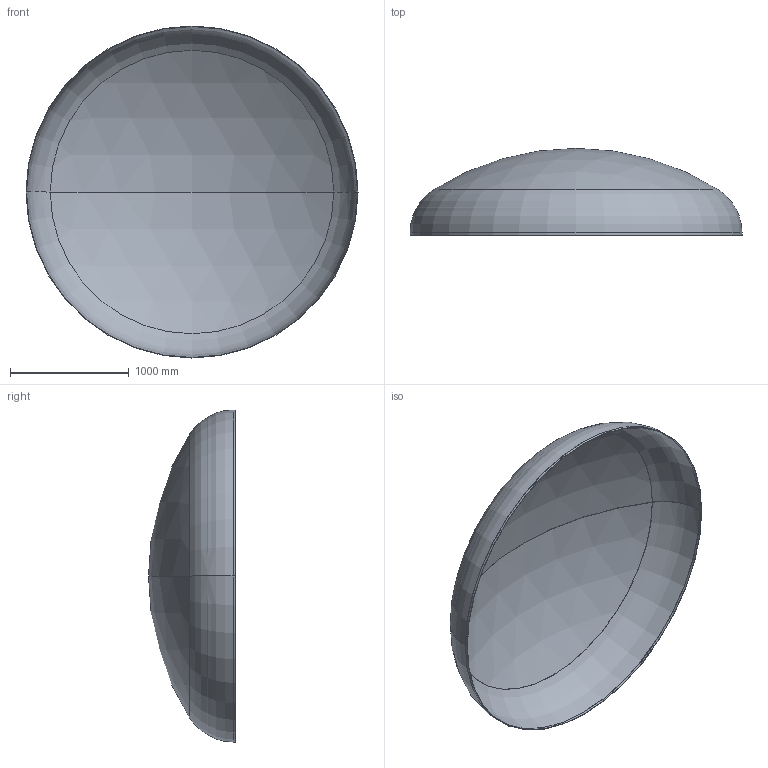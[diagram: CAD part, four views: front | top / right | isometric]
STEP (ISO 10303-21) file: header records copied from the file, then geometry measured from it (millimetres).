
FILE_DESCRIPTION (( 'STEP AP203' ), '1' );
FILE_NAME ('DIN 28013 Korbbogenform_-_Boden DIN 28013 - 2800 x 20 - I - s=4.step', '2016-07-01T16:37:54', ( '' ), ( '' ), 'SwSTEP 2.0', 'SolidWorks 2013', '' );
FILE_SCHEMA (( 'CONFIG_CONTROL_DESIGN' ));
Length unit declared in the file: millimetre
Products named in the file (1): DIN 28013 Korbbogenform_-_Boden DIN 28013 - 2800 x 20 - I - s=4
Bounding box: 2800 x 733.33 x 2800 mm (x, y, z)
Volume: 34735863.7 mm3; surface area: 17403093.7 mm2
Topology: 1 solids, 1 shells, 13 faces, 24 edges, 14 vertices
Faces by surface type: torus 4, cylinder 4, sphere 4, plane 1
Entity records: 407 total; most frequent: DIRECTION 72, CARTESIAN_POINT 52, ORIENTED_EDGE 48, AXIS2_PLACEMENT_3D 34, EDGE_CURVE 24, CIRCLE 20, VERTEX_POINT 14, EDGE_LOOP 14
